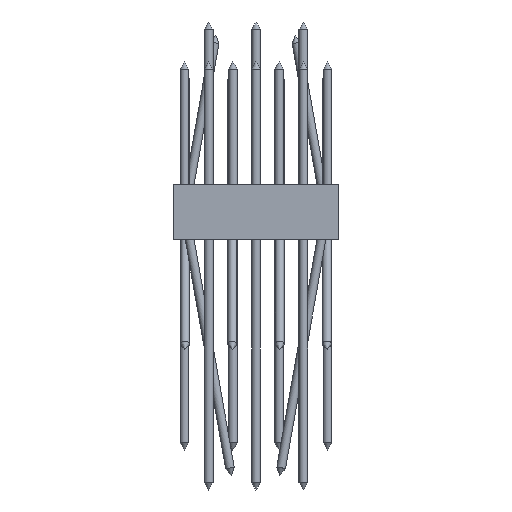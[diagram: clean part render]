
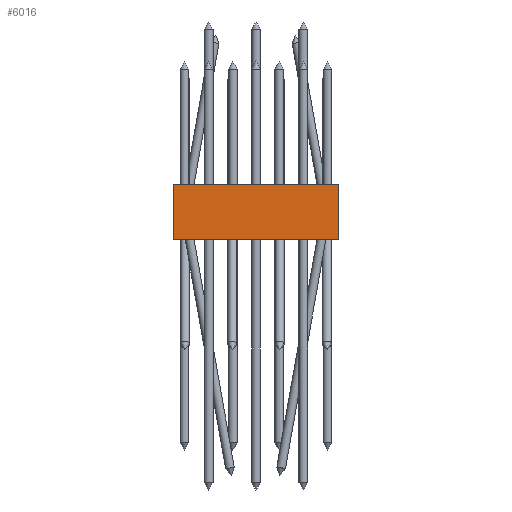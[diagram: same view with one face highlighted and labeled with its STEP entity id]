
A CAD part, front view. The second image highlights one B-rep face of the part: STEP entity #6016.
In plain terms, the highlighted planar face has unit normal (0, -1, 0) as drawn and (1, 0, 0) by its records, which use the part's own axes.
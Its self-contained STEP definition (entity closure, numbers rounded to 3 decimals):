
#353=LINE('',#11253,#551);
#354=LINE('',#11255,#552);
#355=LINE('',#11257,#553);
#356=LINE('',#11259,#554);
#551=VECTOR('',#9268,1000.);
#552=VECTOR('',#9271,1000.);
#553=VECTOR('',#9272,1000.);
#554=VECTOR('',#9273,1000.);
#1247=PLANE('',#7442);
#2495=ORIENTED_EDGE('',*,*,#3160,.F.);
#2496=ORIENTED_EDGE('',*,*,#3159,.F.);
#2497=ORIENTED_EDGE('',*,*,#3161,.T.);
#2498=ORIENTED_EDGE('',*,*,#3162,.T.);
#3159=EDGE_CURVE('',#3684,#3682,#353,.T.);
#3160=EDGE_CURVE('',#3682,#3685,#354,.T.);
#3161=EDGE_CURVE('',#3684,#3686,#355,.T.);
#3162=EDGE_CURVE('',#3686,#3685,#356,.T.);
#3682=VERTEX_POINT('',#11248);
#3684=VERTEX_POINT('',#11252);
#3685=VERTEX_POINT('',#11256);
#3686=VERTEX_POINT('',#11258);
#4699=EDGE_LOOP('',(#2495,#2496,#2497,#2498));
#5517=FACE_BOUND('',#4699,.T.);
#6016=ADVANCED_FACE('',(#5517),#1247,.T.);
#7442=AXIS2_PLACEMENT_3D('',#11254,#9269,#9270);
#9268=DIRECTION('',(0.,-1.,0.));
#9269=DIRECTION('',(1.,0.,0.));
#9270=DIRECTION('',(0.,0.,-1.));
#9271=DIRECTION('',(0.,0.,1.));
#9272=DIRECTION('',(0.,0.,1.));
#9273=DIRECTION('',(0.,-1.,0.));
#11248=CARTESIAN_POINT('',(200.,0.,0.));
#11252=CARTESIAN_POINT('',(200.,150.,0.));
#11253=CARTESIAN_POINT('',(200.,150.,0.));
#11254=CARTESIAN_POINT('',(200.,150.,0.));
#11255=CARTESIAN_POINT('',(200.,0.,0.));
#11256=CARTESIAN_POINT('',(200.,0.,50.));
#11257=CARTESIAN_POINT('',(200.,150.,0.));
#11258=CARTESIAN_POINT('',(200.,150.,50.));
#11259=CARTESIAN_POINT('',(200.,150.,50.));
